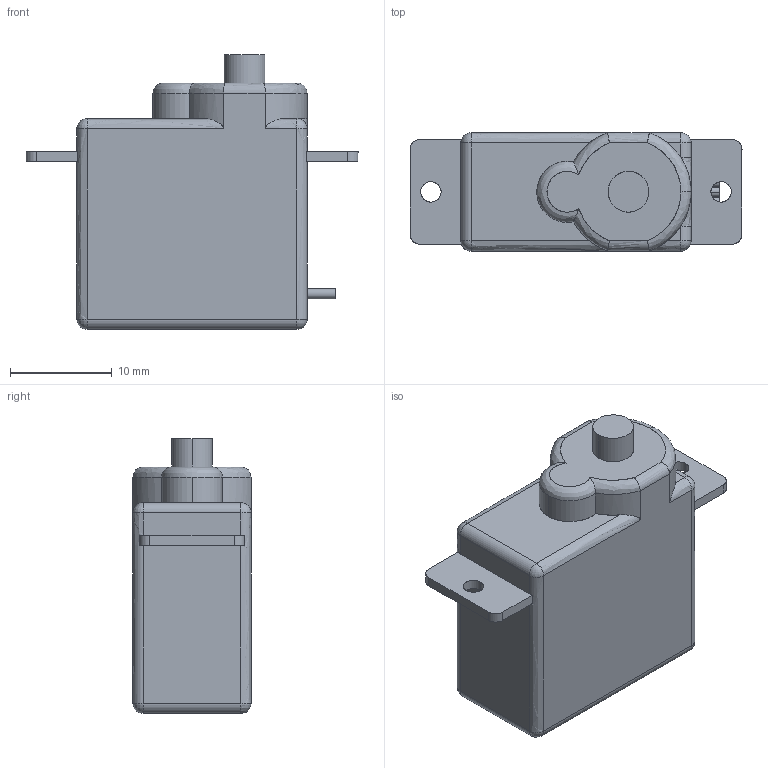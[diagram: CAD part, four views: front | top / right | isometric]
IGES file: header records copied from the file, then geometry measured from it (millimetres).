
Start section: SolidWorks IGES file using analytic representation for surfaces
Global section: file name: C:\Users\Agamemnon\Documents\ASSEM-CAM\SERVO\Hi-Tech HS5055MG Digital Servo.IGS; native system: SolidWorks 2016; preprocessor: SolidWorks 2016; author: Agamemnon; date: 180621.115610; units: millimetre
Bounding box: 32.6 x 11.6 x 27 mm (x, y, z)
Surface area: 2263 mm2 (no closed solid volume)
Topology: 0 solids, 0 shells, 83 faces, 879 edges, 869 vertices
Faces by surface type: revolution 49, bspline 34
